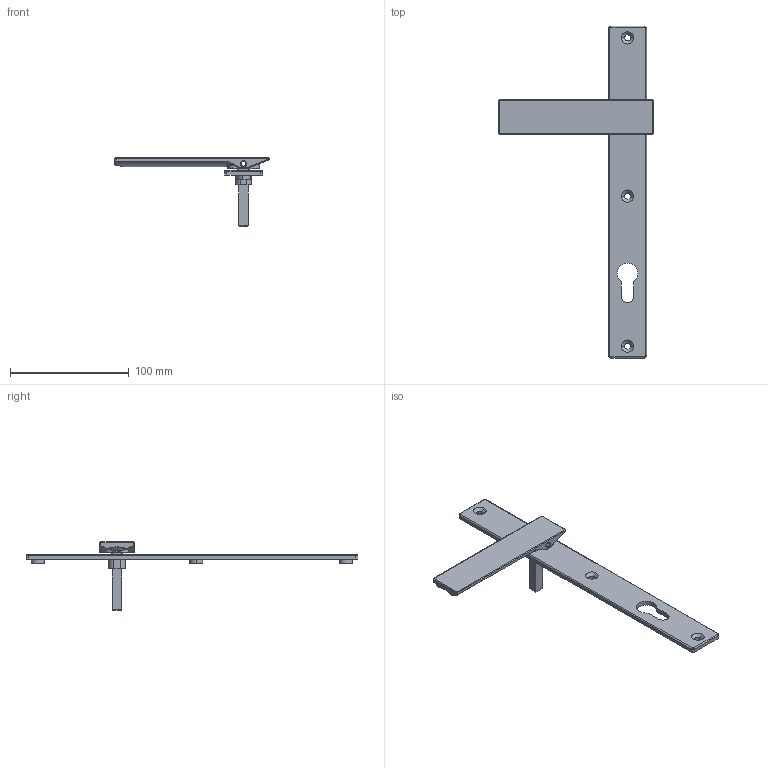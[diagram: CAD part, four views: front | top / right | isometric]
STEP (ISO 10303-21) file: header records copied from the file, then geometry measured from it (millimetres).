
FILE_DESCRIPTION (( 'STEP AP203' ), '1' );
FILE_NAME ('TPL-SS-003-A 23Apr2026.STEP', '2026-04-22T22:53:37', ( '' ), ( '' ), 'SwSTEP 2.0', 'SolidWorks 2023', '' );
FILE_SCHEMA (( 'CONFIG_CONTROL_DESIGN' ));
Length unit declared in the file: millimetre
Products named in the file (6): TPL-SS-003-A 23Apr2026; Copy of LKC-585 Rotator body zinc - simplified^TPGen2 handle keyed internal SS - simplified; Copy of LKC-584 Pivot body zinc - simplified^TPGen2 handle keyed internal SS - simplified; Copy of Escutcheon plate keyed internal 280mm - simplified^TPGen2 handle keyed internal SS - simplified; Copy of LKC-506 Swing handle SS - simplified^TPGen2 handle keyed internal SS - simplified; Copy of LKC-586 Spindle square 8mm with M4 hole - simplified^TPGen2 handle keyed internal SS - simplified_43mm
Assembly tree (5 placements, depth 2):
  TPL-SS-003-A 23Apr2026
    Copy of Escutcheon plate keyed internal 280mm - simplified^TPGen2 handle keyed internal SS - simplified
    Copy of LKC-586 Spindle square 8mm with M4 hole - simplified^TPGen2 handle keyed internal SS - simplified_43mm
    Copy of LKC-584 Pivot body zinc - simplified^TPGen2 handle keyed internal SS - simplified
    Copy of LKC-585 Rotator body zinc - simplified^TPGen2 handle keyed internal SS - simplified
    Copy of LKC-506 Swing handle SS - simplified^TPGen2 handle keyed internal SS - simplified
Bounding box: 130 x 280 x 57.55 mm (x, y, z)
Volume: 59896.9 mm3; surface area: 34361.9 mm2
Topology: 5 solids, 5 shells, 298 faces, 712 edges, 430 vertices
Faces by surface type: cylinder 113, plane 81, bspline 44, torus 36, cone 22, sphere 2
Entity records: 10250 total; most frequent: CARTESIAN_POINT 2934, ORIENTED_EDGE 1420, DIRECTION 1411, EDGE_CURVE 710, AXIS2_PLACEMENT_3D 559, VERTEX_POINT 430, EDGE_LOOP 332, ADVANCED_FACE 298
